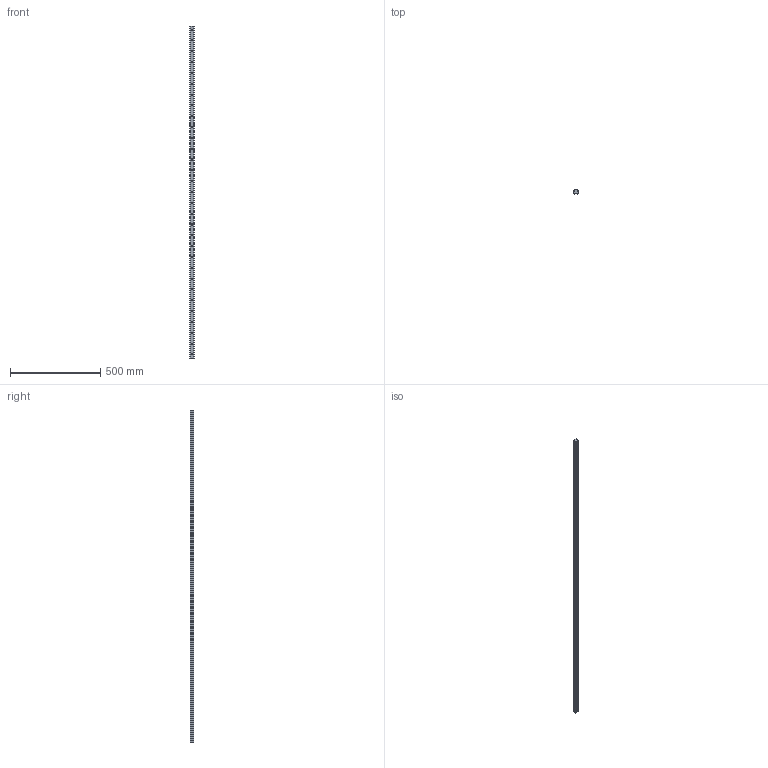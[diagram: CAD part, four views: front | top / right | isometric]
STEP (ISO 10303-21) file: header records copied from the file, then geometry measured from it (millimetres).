
FILE_DESCRIPTION (( 'STEP AP203' ), '1' );
FILE_NAME ('L1016.BRF25-1840.step', '2019-06-13T08:39:50', ( '' ), ( '' ), 'SwSTEP 2.0', 'SolidWorks 2017', '' );
FILE_SCHEMA (( 'CONFIG_CONTROL_DESIGN' ));
Length unit declared in the file: millimetre
Products named in the file (1): L1016.BRF25-1840
Bounding box: 23 x 19.2 x 1840 mm (x, y, z)
Volume: 702468.3 mm3; surface area: 169652.4 mm2
Topology: 1 solids, 1 shells, 243 faces, 568 edges, 327 vertices
Faces by surface type: cylinder 128, cone 62, plane 53
Entity records: 6605 total; most frequent: DIRECTION 1250, CARTESIAN_POINT 1077, ORIENTED_EDGE 1012, EDGE_CURVE 506, AXIS2_PLACEMENT_3D 500, VERTEX_POINT 327, EDGE_LOOP 305, CIRCLE 256
